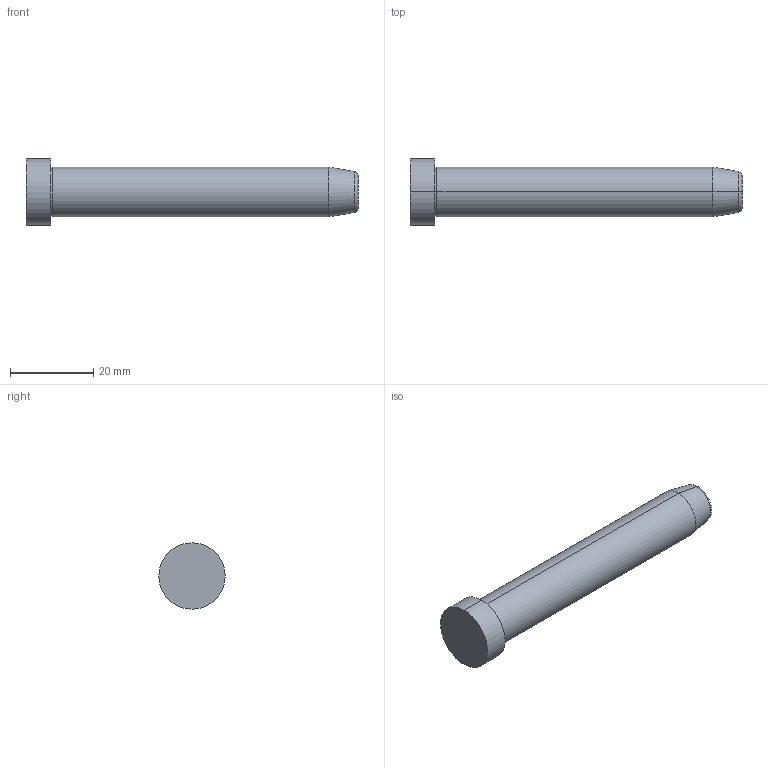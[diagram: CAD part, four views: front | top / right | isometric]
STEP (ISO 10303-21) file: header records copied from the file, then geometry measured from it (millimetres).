
FILE_DESCRIPTION( ( 'STEP AP203' ), '1' );
FILE_NAME( 'D:/Delta 3 D/D01D/12/D01D - 12x80.step', '2003-01-02T23:13:46', ( ' ' ), ( ' ' ), 'XStep 1.0', ' ', ' ' );
FILE_SCHEMA( ( 'CONFIG_CONTROL_DESIGN' ) );
Length unit declared in the file: metre
Products named in the file (1): 1
Bounding box: 80 x 16 x 16 mm (x, y, z)
Volume: 9415.2 mm3; surface area: 3437.1 mm2
Topology: 1 solids, 1 shells, 14 faces, 26 edges, 16 vertices
Faces by surface type: revolution 8, bspline 6
Entity records: 437 total; most frequent: CARTESIAN_POINT 121, ORIENTED_EDGE 52, DIRECTION 50, EDGE_CURVE 26, AXIS2_PLACEMENT_3D 17, EDGE_LOOP 16, VERTEX_POINT 16, CIRCLE 16
